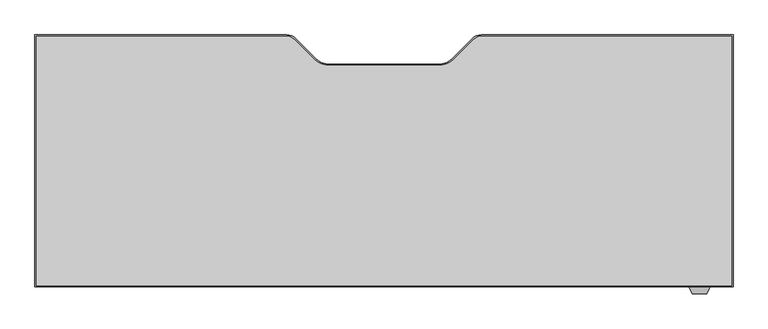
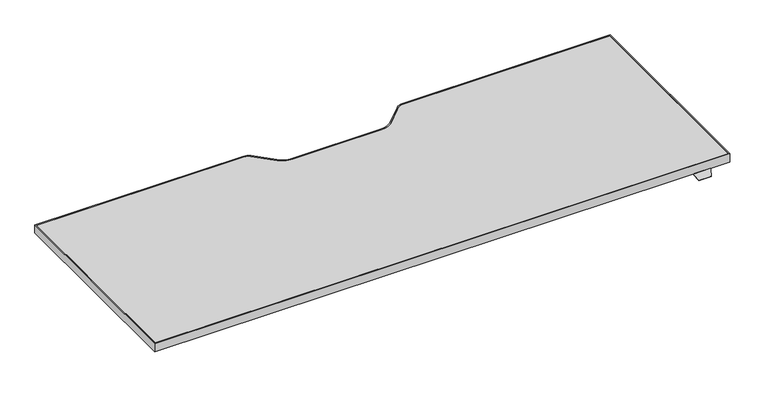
"""IFC4 building model written with IfcOpenShell, lengths in millimetres: furniture geometry, Steelcase Turnstone - Bivi - Height Adjustable Desk - T Base : 24D x 66.5W."""

from ifc_helpers import new_model, si_unit, point, frame, frame_2d, origin, place, context, project, spatial, polyline, circle_curve, trimmed, segment, composite_curve, outline, extrude, faceted_brep, source, transform, mapped, element, save


def furniture_e0625270(model_context):
    return source(origin(), model_context, "Body", "SolidModel", [
        faceted_brep([(398.5677913, -402.3301693, 760.9984131), (398.5677913, -399.8074599, 760.9984131), (398.5677913, -399.8074599, 762.4), (398.5677913, -402.3490853, 762.4), (398.5677913, -403.6594921, 761.3004382), (398.5677913, -403.6594921, 759.8829789), (348.9948135, -402.3490853, 762.4), (348.9948135, -399.8074599, 762.4), (348.9948135, -399.8074599, 760.9984131), (348.9948135, -402.3301693, 760.9984131), (348.9948135, -403.6594921, 759.8829789), (348.9948135, -403.6594921, 761.3004382), (391.5858363, -418.6323429, 748.7367246), (355.9767685, -418.6323429, 748.7367246), (355.6173686, -417.8616074, 747.9659891), (391.9452362, -417.8616074, 747.9659891)], [[[0, 1, 2, 3, 4, 5]], [[6, 7, 8, 9, 10, 11]], [[12, 13, 14, 15]], [[9, 0, 5, 15, 14, 10]], [[1, 0, 9, 8]], [[2, 1, 8, 7]], [[3, 2, 7, 6]], [[3, 6, 11, 13, 12, 4]], [[5, 4, 12, 15]], [[11, 10, 14, 13]]]),
        extrude(outline(composite_curve([segment(polyline([(-1233.7785908, 207.2509147), (-623.9070191, 207.2509147)]), True, "CONTINUOUS"), segment(trimmed(circle_curve(frame_2d((-623.9070191, 178.5489147)), 28.702), [point((-623.9070191, 207.2509147))], [point((-603.6116402, 198.8442935))], False, "CARTESIAN"), True, "CONTINUOUS"), segment(polyline([(-603.6116402, 198.8442935), (-556.0972358, 151.3298891)]), True, "CONTINUOUS"), segment(trimmed(circle_curve(frame_2d((-520.1762113, 187.2509136)), 50.8), [point((-556.0972358, 151.3298891))], [point((-520.1762113, 136.4509136))], True, "CARTESIAN"), True, "CONTINUOUS"), segment(polyline([(-520.1762113, 136.4509136), (-258.2809703, 136.4509136)]), True, "CONTINUOUS"), segment(trimmed(circle_curve(frame_2d((-258.2809703, 187.2509136)), 50.8), [point((-258.2809703, 136.4509136))], [point((-222.3599458, 151.3298891))], True, "CARTESIAN"), True, "CONTINUOUS"), segment(polyline([(-222.3599458, 151.3298891), (-174.8455414, 198.8442935)]), True, "CONTINUOUS"), segment(trimmed(circle_curve(frame_2d((-154.5501625, 178.5489147)), 28.702), [point((-174.8455414, 198.8442935))], [point((-154.5501625, 207.2509147))], False, "CARTESIAN"), True, "CONTINUOUS"), segment(polyline([(-154.5501625, 207.2509147), (455.3214092, 207.2509147), (455.3214092, -402.3490853), (-1233.7785908, -402.3490853), (-1233.7785908, 207.2509147)]), True, "CONTINUOUS")], self_intersect=False), holes=[composite_curve([segment(polyline([(-1230.3987543, 203.9489147), (-1230.3987543, -399.0470853), (452.0194092, -399.0470853), (452.0194092, 203.9489147), (-154.5501625, 203.9489147)]), True, "CONTINUOUS"), segment(trimmed(circle_curve(frame_2d((-154.5501625, 178.5489147)), 25.4), [point((-154.5501625, 203.9489147))], [point((-172.5106748, 196.5094269))], True, "CARTESIAN"), True, "CONTINUOUS"), segment(polyline([(-172.5106748, 196.5094269), (-220.527602, 148.4924998)]), True, "CONTINUOUS"), segment(trimmed(circle_curve(frame_2d((-256.4486265, 184.4135242)), 50.8), [point((-220.527602, 148.4924998))], [point((-256.4486265, 133.6135242))], False, "CARTESIAN"), True, "CONTINUOUS"), segment(polyline([(-256.4486265, 133.6135242), (-389.2285908, 133.6135242), (-522.0085552, 133.6135242)]), True, "CONTINUOUS"), segment(trimmed(circle_curve(frame_2d((-522.0085552, 184.4135242)), 50.8), [point((-522.0085552, 133.6135242))], [point((-557.9295796, 148.4924998))], False, "CARTESIAN"), True, "CONTINUOUS"), segment(polyline([(-557.9295796, 148.4924998), (-605.9465068, 196.5094269)]), True, "CONTINUOUS"), segment(trimmed(circle_curve(frame_2d((-623.9070191, 178.5489147)), 25.4), [point((-605.9465068, 196.5094269))], [point((-623.9070191, 203.9489147))], True, "CARTESIAN"), True, "CONTINUOUS"), segment(polyline([(-623.9070191, 203.9489147), (-1230.3987543, 203.9489147)]), True, "CONTINUOUS")], self_intersect=False)]), frame((0.0, 0.0, 762.4), z_axis=(0.0, 0.0, 1.0), x_axis=(1.0, 0.0, 0.0)), (0.0, 0.0, 1.0), 25.0),
        extrude(outline(composite_curve([segment(polyline([(-1230.3987543, 203.9489147), (-623.9070191, 203.9489147)]), True, "CONTINUOUS"), segment(trimmed(circle_curve(frame_2d((-623.9070191, 178.5489147)), 25.4), [point((-623.9070191, 203.9489147))], [point((-605.9465068, 196.5094269))], False, "CARTESIAN"), True, "CONTINUOUS"), segment(polyline([(-605.9465068, 196.5094269), (-557.9295796, 148.4924998)]), True, "CONTINUOUS"), segment(trimmed(circle_curve(frame_2d((-522.0085552, 184.4135242)), 50.8), [point((-557.9295796, 148.4924998))], [point((-522.0085552, 133.6135242))], True, "CARTESIAN"), True, "CONTINUOUS"), segment(polyline([(-522.0085552, 133.6135242), (-389.2285908, 133.6135242), (-256.4486265, 133.6135242)]), True, "CONTINUOUS"), segment(trimmed(circle_curve(frame_2d((-256.4486265, 184.4135242)), 50.8), [point((-256.4486265, 133.6135242))], [point((-220.527602, 148.4924998))], True, "CARTESIAN"), True, "CONTINUOUS"), segment(polyline([(-220.527602, 148.4924998), (-172.5106748, 196.5094269)]), True, "CONTINUOUS"), segment(trimmed(circle_curve(frame_2d((-154.5501625, 178.5489147)), 25.4), [point((-172.5106748, 196.5094269))], [point((-154.5501625, 203.9489147))], False, "CARTESIAN"), True, "CONTINUOUS"), segment(polyline([(-154.5501625, 203.9489147), (452.0194092, 203.9489147), (452.0194092, -399.0470853), (-1230.3987543, -399.0470853), (-1230.3987543, 203.9489147)]), True, "CONTINUOUS")], self_intersect=False)), frame((0.0, 0.0, 762.4), z_axis=(0.0, 0.0, 1.0), x_axis=(1.0, 0.0, 0.0)), (0.0, 0.0, 1.0), 25.0),
    ])


if __name__ == "__main__":
    model = new_model("IFC4")
    model_context = context("Model", 3, world=origin())
    ifc_project = project(units=[si_unit("LENGTHUNIT", "METRE", prefix="MILLI")], contexts=[model_context])
    site = spatial("IfcSite", under=ifc_project)
    building = spatial("IfcBuilding", under=site)
    placement = place(None, origin())
    furniture_shape = furniture_e0625270(model_context)
    element("IfcFurniture", 1, ObjectType="Steelcase Turnstone - Bivi - Height Adjustable Desk - T Base : 24D x 66.5W", at=placement, inside=building, context=model_context, shape_type="MappedRepresentation", body=[
        mapped(furniture_shape, transform((0.0, 0.0, 0.0), x_axis=(1.0, 0.0, 0.0), y_axis=(0.0, 1.0, 0.0), z_axis=(0.0, 0.0, 1.0))),
    ])
    save(model, "model.ifc")
